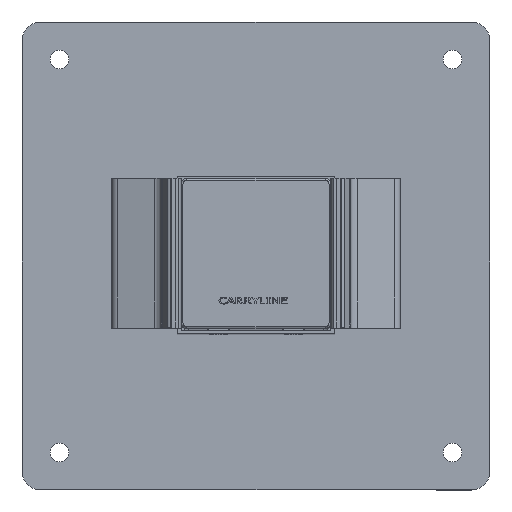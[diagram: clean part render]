
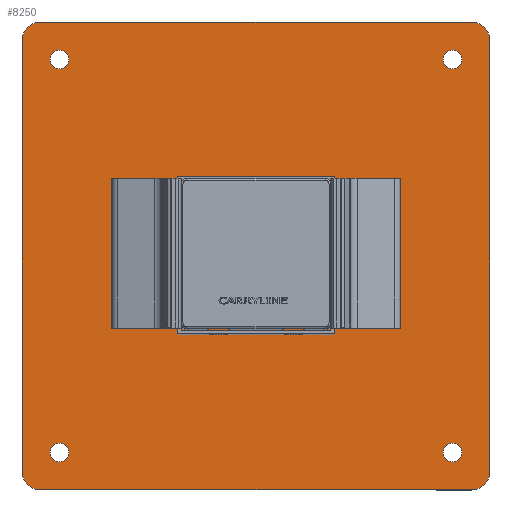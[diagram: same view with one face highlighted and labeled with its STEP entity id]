
A CAD part, top view. The second image highlights one B-rep face of the part: STEP entity #8250.
In plain terms, the highlighted planar face has unit normal (0, 0, 1).
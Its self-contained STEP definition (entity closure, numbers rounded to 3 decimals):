
#7354=CARTESIAN_POINT('',(-9.244,84.231,4.0));
#7355=VERTEX_POINT('',#7354);
#7362=CARTESIAN_POINT('',(70.756,84.231,4.0));
#7363=VERTEX_POINT('',#7362);
#7364=CARTESIAN_POINT('',(70.756,84.231,4.0));
#7365=DIRECTION('',(-1.0,0.0,0.0));
#7366=VECTOR('',#7365,80.0);
#7367=LINE('',#7364,#7366);
#7368=EDGE_CURVE('',#7363,#7355,#7367,.T.);
#7404=CARTESIAN_POINT('',(-9.244,64.231,4.0));
#7405=VERTEX_POINT('',#7404);
#7412=CARTESIAN_POINT('',(-9.244,84.231,4.0));
#7413=DIRECTION('',(0.0,-1.0,0.0));
#7414=VECTOR('',#7413,20.0);
#7415=LINE('',#7412,#7414);
#7416=EDGE_CURVE('',#7355,#7405,#7415,.T.);
#7435=CARTESIAN_POINT('',(-11.244,64.231,4.0));
#7436=VERTEX_POINT('',#7435);
#7443=CARTESIAN_POINT('',(-9.244,64.231,4.0));
#7444=DIRECTION('',(-1.0,0.0,0.0));
#7445=VECTOR('',#7444,2.0);
#7446=LINE('',#7443,#7445);
#7447=EDGE_CURVE('',#7405,#7436,#7446,.T.);
#7466=CARTESIAN_POINT('',(-11.244,86.231,4.0));
#7467=VERTEX_POINT('',#7466);
#7474=CARTESIAN_POINT('',(-11.244,64.231,4.0));
#7475=DIRECTION('',(0.0,1.0,0.0));
#7476=VECTOR('',#7475,22.);
#7477=LINE('',#7474,#7476);
#7478=EDGE_CURVE('',#7436,#7467,#7477,.T.);
#7497=CARTESIAN_POINT('',(72.756,86.231,4.0));
#7498=VERTEX_POINT('',#7497);
#7505=CARTESIAN_POINT('',(-11.244,86.231,4.0));
#7506=DIRECTION('',(1.0,0.0,0.0));
#7507=VECTOR('',#7506,84.);
#7508=LINE('',#7505,#7507);
#7509=EDGE_CURVE('',#7467,#7498,#7508,.T.);
#7540=CARTESIAN_POINT('',(72.756,64.231,4.0));
#7541=VERTEX_POINT('',#7540);
#7548=CARTESIAN_POINT('',(72.756,86.231,4.0));
#7549=DIRECTION('',(0.0,-1.0,0.0));
#7550=VECTOR('',#7549,22.);
#7551=LINE('',#7548,#7550);
#7552=EDGE_CURVE('',#7498,#7541,#7551,.T.);
#7571=CARTESIAN_POINT('',(70.756,64.231,4.0));
#7572=VERTEX_POINT('',#7571);
#7579=CARTESIAN_POINT('',(72.756,64.231,4.0));
#7580=DIRECTION('',(-1.0,0.0,0.0));
#7581=VECTOR('',#7580,2.);
#7582=LINE('',#7579,#7581);
#7583=EDGE_CURVE('',#7541,#7572,#7582,.T.);
#7601=CARTESIAN_POINT('',(70.756,64.231,4.0));
#7602=DIRECTION('',(0.0,1.0,0.0));
#7603=VECTOR('',#7602,20.0);
#7604=LINE('',#7601,#7603);
#7605=EDGE_CURVE('',#7572,#7363,#7604,.T.);
#7642=CARTESIAN_POINT('',(70.756,24.231,4.0));
#7643=VERTEX_POINT('',#7642);
#7650=CARTESIAN_POINT('',(70.756,4.231,4.0));
#7651=VERTEX_POINT('',#7650);
#7652=CARTESIAN_POINT('',(70.756,4.231,4.0));
#7653=DIRECTION('',(0.0,1.0,0.0));
#7654=VECTOR('',#7653,20.0);
#7655=LINE('',#7652,#7654);
#7656=EDGE_CURVE('',#7651,#7643,#7655,.T.);
#7680=CARTESIAN_POINT('',(72.756,24.231,4.0));
#7681=VERTEX_POINT('',#7680);
#7688=CARTESIAN_POINT('',(70.756,24.231,4.0));
#7689=DIRECTION('',(1.0,0.0,0.0));
#7690=VECTOR('',#7689,2.0);
#7691=LINE('',#7688,#7690);
#7692=EDGE_CURVE('',#7643,#7681,#7691,.T.);
#7711=CARTESIAN_POINT('',(72.756,2.231,4.0));
#7712=VERTEX_POINT('',#7711);
#7719=CARTESIAN_POINT('',(72.756,24.231,4.0));
#7720=DIRECTION('',(0.0,-1.0,0.0));
#7721=VECTOR('',#7720,22.);
#7722=LINE('',#7719,#7721);
#7723=EDGE_CURVE('',#7681,#7712,#7722,.T.);
#7742=CARTESIAN_POINT('',(-11.244,2.231,4.0));
#7743=VERTEX_POINT('',#7742);
#7750=CARTESIAN_POINT('',(72.756,2.231,4.0));
#7751=DIRECTION('',(-1.0,0.0,0.0));
#7752=VECTOR('',#7751,84.);
#7753=LINE('',#7750,#7752);
#7754=EDGE_CURVE('',#7712,#7743,#7753,.T.);
#7785=CARTESIAN_POINT('',(-11.244,24.231,4.0));
#7786=VERTEX_POINT('',#7785);
#7793=CARTESIAN_POINT('',(-11.244,2.231,4.0));
#7794=DIRECTION('',(0.0,1.0,0.0));
#7795=VECTOR('',#7794,22.);
#7796=LINE('',#7793,#7795);
#7797=EDGE_CURVE('',#7743,#7786,#7796,.T.);
#7816=CARTESIAN_POINT('',(-9.244,24.231,4.0));
#7817=VERTEX_POINT('',#7816);
#7824=CARTESIAN_POINT('',(-11.244,24.231,4.0));
#7825=DIRECTION('',(1.0,0.0,0.0));
#7826=VECTOR('',#7825,2.0);
#7827=LINE('',#7824,#7826);
#7828=EDGE_CURVE('',#7786,#7817,#7827,.T.);
#7847=CARTESIAN_POINT('',(-9.244,4.231,4.0));
#7848=VERTEX_POINT('',#7847);
#7855=CARTESIAN_POINT('',(-9.244,24.231,4.0));
#7856=DIRECTION('',(0.0,-1.0,0.0));
#7857=VECTOR('',#7856,20.0);
#7858=LINE('',#7855,#7857);
#7859=EDGE_CURVE('',#7817,#7848,#7858,.T.);
#7877=CARTESIAN_POINT('',(-9.244,4.231,4.0));
#7878=DIRECTION('',(1.0,0.0,0.0));
#7879=VECTOR('',#7878,80.0);
#7880=LINE('',#7877,#7879);
#7881=EDGE_CURVE('',#7848,#7651,#7880,.T.);
#7952=CARTESIAN_POINT('',(140.756,-60.769,4.0));
#7953=VERTEX_POINT('',#7952);
#7954=CARTESIAN_POINT('',(135.756,-60.769,4.));
#7955=DIRECTION('',(0.0,0.0,-1.0));
#7956=DIRECTION('',(1.0,0.0,0.0));
#7957=AXIS2_PLACEMENT_3D('',#7954,#7955,#7956);
#7958=CIRCLE('',#7957,5.0);
#7959=EDGE_CURVE('',#7953,#7953,#7958,.T.);
#8001=CARTESIAN_POINT('',(140.756,149.231,4.0));
#8002=VERTEX_POINT('',#8001);
#8003=CARTESIAN_POINT('',(135.756,149.231,4.));
#8004=DIRECTION('',(0.0,0.0,-1.0));
#8005=DIRECTION('',(1.0,0.0,0.0));
#8006=AXIS2_PLACEMENT_3D('',#8003,#8004,#8005);
#8007=CIRCLE('',#8006,5.0);
#8008=EDGE_CURVE('',#8002,#8002,#8007,.T.);
#8050=CARTESIAN_POINT('',(-69.244,149.231,4.0));
#8051=VERTEX_POINT('',#8050);
#8052=CARTESIAN_POINT('',(-74.244,149.231,4.));
#8053=DIRECTION('',(0.0,0.0,-1.0));
#8054=DIRECTION('',(1.0,0.0,0.0));
#8055=AXIS2_PLACEMENT_3D('',#8052,#8053,#8054);
#8056=CIRCLE('',#8055,5.0);
#8057=EDGE_CURVE('',#8051,#8051,#8056,.T.);
#8099=CARTESIAN_POINT('',(-69.244,-60.769,4.0));
#8100=VERTEX_POINT('',#8099);
#8101=CARTESIAN_POINT('',(-74.244,-60.769,4.));
#8102=DIRECTION('',(0.0,0.0,-1.0));
#8103=DIRECTION('',(1.0,0.0,0.0));
#8104=AXIS2_PLACEMENT_3D('',#8101,#8102,#8103);
#8105=CIRCLE('',#8104,5.0);
#8106=EDGE_CURVE('',#8100,#8100,#8105,.T.);
#8116=CARTESIAN_POINT('',(145.756,169.231,4.0));
#8117=VERTEX_POINT('',#8116);
#8118=CARTESIAN_POINT('',(155.756,159.231,4.0));
#8119=VERTEX_POINT('',#8118);
#8120=CARTESIAN_POINT('',(145.756,159.231,4.0));
#8121=DIRECTION('',(0.0,0.0,-1.));
#8122=DIRECTION('',(0.707,0.707,0.0));
#8123=AXIS2_PLACEMENT_3D('',#8120,#8121,#8122);
#8124=CIRCLE('',#8123,10.);
#8125=EDGE_CURVE('',#8117,#8119,#8124,.T.);
#8153=CARTESIAN_POINT('',(30.756,44.231,4.0));
#8154=DIRECTION('',(0.0,0.0,1.0));
#8155=DIRECTION('',(1.0,0.0,0.0));
#8156=AXIS2_PLACEMENT_3D('',#8153,#8154,#8155);
#8157=PLANE('',#8156);
#8158=ORIENTED_EDGE('',*,*,#8125,.F.);
#8159=CARTESIAN_POINT('',(-84.244,169.231,4.0));
#8160=VERTEX_POINT('',#8159);
#8161=CARTESIAN_POINT('',(-84.244,169.231,4.0));
#8162=DIRECTION('',(1.0,0.0,0.0));
#8163=VECTOR('',#8162,230.);
#8164=LINE('',#8161,#8163);
#8165=EDGE_CURVE('',#8160,#8117,#8164,.T.);
#8166=ORIENTED_EDGE('',*,*,#8165,.F.);
#8167=CARTESIAN_POINT('',(-94.244,159.231,4.0));
#8168=VERTEX_POINT('',#8167);
#8169=CARTESIAN_POINT('',(-84.244,159.231,4.0));
#8170=DIRECTION('',(0.0,0.0,-1.));
#8171=DIRECTION('',(-0.707,0.707,0.0));
#8172=AXIS2_PLACEMENT_3D('',#8169,#8170,#8171);
#8173=CIRCLE('',#8172,10.);
#8174=EDGE_CURVE('',#8168,#8160,#8173,.T.);
#8175=ORIENTED_EDGE('',*,*,#8174,.F.);
#8176=CARTESIAN_POINT('',(-94.244,-70.769,4.0));
#8177=VERTEX_POINT('',#8176);
#8178=CARTESIAN_POINT('',(-94.244,-70.769,4.0));
#8179=DIRECTION('',(0.0,1.0,0.0));
#8180=VECTOR('',#8179,230.0);
#8181=LINE('',#8178,#8180);
#8182=EDGE_CURVE('',#8177,#8168,#8181,.T.);
#8183=ORIENTED_EDGE('',*,*,#8182,.F.);
#8184=CARTESIAN_POINT('',(-84.244,-80.769,4.0));
#8185=VERTEX_POINT('',#8184);
#8186=CARTESIAN_POINT('',(-84.244,-70.769,4.0));
#8187=DIRECTION('',(0.0,0.0,-1.));
#8188=DIRECTION('',(-0.707,-0.707,0.0));
#8189=AXIS2_PLACEMENT_3D('',#8186,#8187,#8188);
#8190=CIRCLE('',#8189,10.);
#8191=EDGE_CURVE('',#8185,#8177,#8190,.T.);
#8192=ORIENTED_EDGE('',*,*,#8191,.F.);
#8193=CARTESIAN_POINT('',(145.756,-80.769,4.0));
#8194=VERTEX_POINT('',#8193);
#8195=CARTESIAN_POINT('',(145.756,-80.769,4.0));
#8196=DIRECTION('',(-1.0,0.0,0.0));
#8197=VECTOR('',#8196,230.0);
#8198=LINE('',#8195,#8197);
#8199=EDGE_CURVE('',#8194,#8185,#8198,.T.);
#8200=ORIENTED_EDGE('',*,*,#8199,.F.);
#8201=CARTESIAN_POINT('',(155.756,-70.769,4.0));
#8202=VERTEX_POINT('',#8201);
#8203=CARTESIAN_POINT('',(145.756,-70.769,4.0));
#8204=DIRECTION('',(0.0,0.0,-1.));
#8205=DIRECTION('',(0.707,-0.707,0.0));
#8206=AXIS2_PLACEMENT_3D('',#8203,#8204,#8205);
#8207=CIRCLE('',#8206,10.);
#8208=EDGE_CURVE('',#8202,#8194,#8207,.T.);
#8209=ORIENTED_EDGE('',*,*,#8208,.F.);
#8210=CARTESIAN_POINT('',(155.756,159.231,4.0));
#8211=DIRECTION('',(0.0,-1.0,0.0));
#8212=VECTOR('',#8211,230.0);
#8213=LINE('',#8210,#8212);
#8214=EDGE_CURVE('',#8119,#8202,#8213,.T.);
#8215=ORIENTED_EDGE('',*,*,#8214,.F.);
#8216=EDGE_LOOP('',(#8158,#8166,#8175,#8183,#8192,#8200,#8209,#8215));
#8217=FACE_OUTER_BOUND('',#8216,.T.);
#8218=ORIENTED_EDGE('',*,*,#7368,.T.);
#8219=ORIENTED_EDGE('',*,*,#7416,.T.);
#8220=ORIENTED_EDGE('',*,*,#7447,.T.);
#8221=ORIENTED_EDGE('',*,*,#7478,.T.);
#8222=ORIENTED_EDGE('',*,*,#7509,.T.);
#8223=ORIENTED_EDGE('',*,*,#7552,.T.);
#8224=ORIENTED_EDGE('',*,*,#7583,.T.);
#8225=ORIENTED_EDGE('',*,*,#7605,.T.);
#8226=EDGE_LOOP('',(#8218,#8219,#8220,#8221,#8222,#8223,#8224,#8225));
#8227=FACE_BOUND('',#8226,.T.);
#8228=ORIENTED_EDGE('',*,*,#7656,.T.);
#8229=ORIENTED_EDGE('',*,*,#7692,.T.);
#8230=ORIENTED_EDGE('',*,*,#7723,.T.);
#8231=ORIENTED_EDGE('',*,*,#7754,.T.);
#8232=ORIENTED_EDGE('',*,*,#7797,.T.);
#8233=ORIENTED_EDGE('',*,*,#7828,.T.);
#8234=ORIENTED_EDGE('',*,*,#7859,.T.);
#8235=ORIENTED_EDGE('',*,*,#7881,.T.);
#8236=EDGE_LOOP('',(#8228,#8229,#8230,#8231,#8232,#8233,#8234,#8235));
#8237=FACE_BOUND('',#8236,.T.);
#8238=ORIENTED_EDGE('',*,*,#7959,.T.);
#8239=EDGE_LOOP('',(#8238));
#8240=FACE_BOUND('',#8239,.T.);
#8241=ORIENTED_EDGE('',*,*,#8008,.T.);
#8242=EDGE_LOOP('',(#8241));
#8243=FACE_BOUND('',#8242,.T.);
#8244=ORIENTED_EDGE('',*,*,#8057,.T.);
#8245=EDGE_LOOP('',(#8244));
#8246=FACE_BOUND('',#8245,.T.);
#8247=ORIENTED_EDGE('',*,*,#8106,.T.);
#8248=EDGE_LOOP('',(#8247));
#8249=FACE_BOUND('',#8248,.T.);
#8250=ADVANCED_FACE('',(#8217,#8227,#8237,#8240,#8243,#8246,#8249),#8157,.T.);
